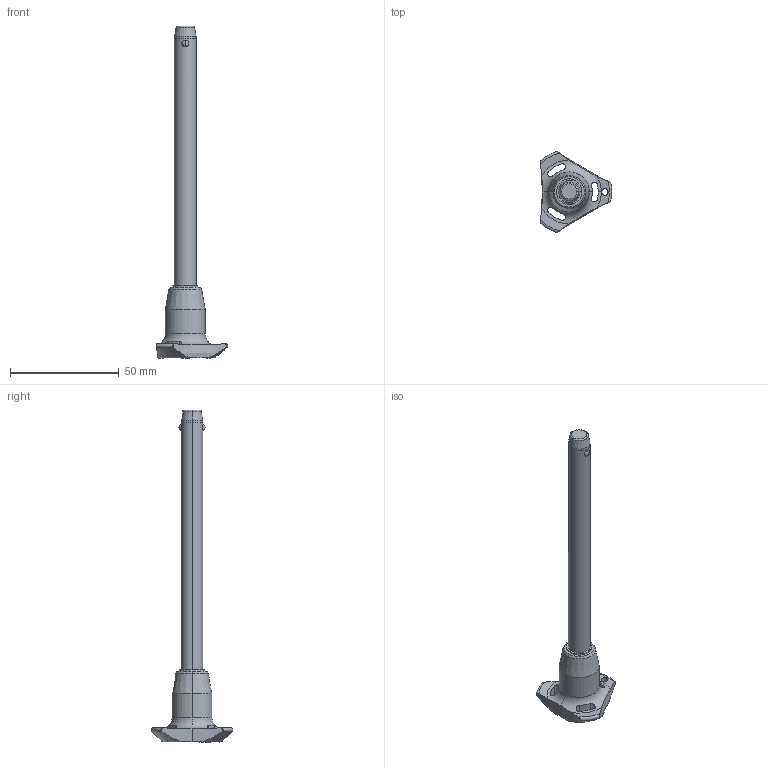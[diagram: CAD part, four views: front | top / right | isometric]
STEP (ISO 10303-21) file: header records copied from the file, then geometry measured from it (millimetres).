
FILE_DESCRIPTION (( 'STEP AP203' ), '1' );
FILE_NAME ('QR1716.M10-110-T.step', '2025-11-13T10:34:51', ( '' ), ( '' ), 'SwSTEP 2.0', 'SolidWorks 2019', '' );
FILE_SCHEMA (( 'CONFIG_CONTROL_DESIGN' ));
Length unit declared in the file: millimetre
Products named in the file (1): QR1716.M10-110-T
Bounding box: 33 x 37.51 x 152.9 mm (x, y, z)
Volume: 19046.4 mm3; surface area: 7549.2 mm2
Topology: 1 solids, 1 shells, 68 faces, 180 edges, 113 vertices
Faces by surface type: cylinder 32, cone 14, torus 11, sphere 6, plane 5
Entity records: 2823 total; most frequent: CARTESIAN_POINT 1083, ORIENTED_EDGE 360, DIRECTION 347, EDGE_CURVE 180, AXIS2_PLACEMENT_3D 154, VERTEX_POINT 113, CIRCLE 85, EDGE_LOOP 75
